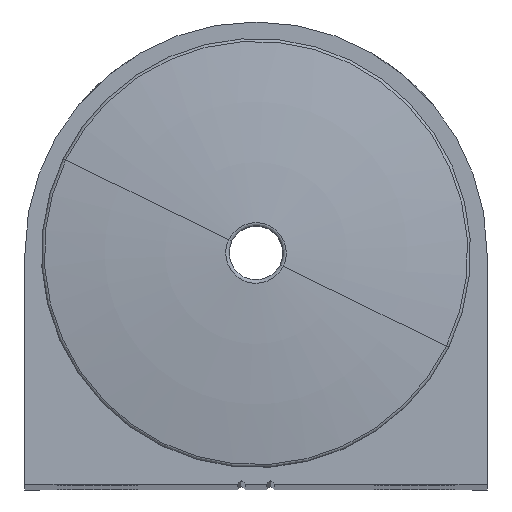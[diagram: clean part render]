
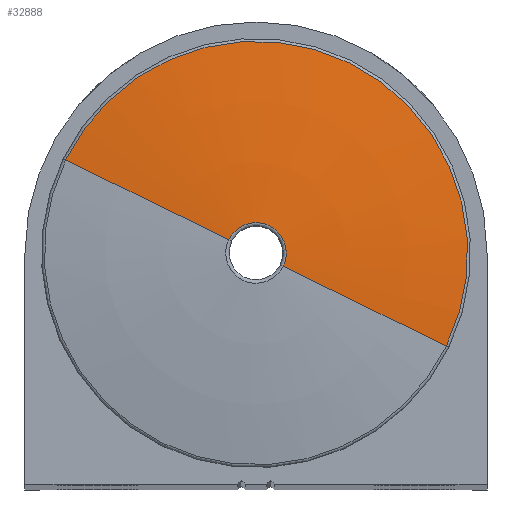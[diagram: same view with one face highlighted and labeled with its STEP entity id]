
A CAD part, top view. The second image highlights one B-rep face of the part: STEP entity #32888.
In plain terms, the highlighted toroidal (fillet/blend) face has major radius 5.57 mm and minor radius 140 mm.
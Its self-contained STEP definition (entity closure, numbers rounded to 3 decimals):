
#842 = CIRCLE ( 'NONE', #12181, 140. ) ;
#3749 = CARTESIAN_POINT ( 'NONE',  ( 134.53, 190.047, 392.928 ) ) ;
#4971 = CARTESIAN_POINT ( 'NONE',  ( 132.473, 191.053, 391.471 ) ) ;
#5344 = EDGE_LOOP ( 'NONE', ( #26996, #29616, #21398, #35360 ) ) ;
#6284 = CARTESIAN_POINT ( 'NONE',  ( 132.473, 191.053, 392.928 ) ) ;
#6492 = CARTESIAN_POINT ( 'NONE',  ( 127.47, 193.501, 253.149 ) ) ;
#8000 = TOROIDAL_SURFACE ( 'NONE', #24043, -5.57, 140. ) ;
#8002 = DIRECTION ( 'NONE',  ( -0.898, 0.439, 0. ) ) ;
#8317 = CIRCLE ( 'NONE', #32058, 16.039 ) ;
#9350 = DIRECTION ( 'NONE',  ( -0.898, 0.439, 0. ) ) ;
#9541 = VERTEX_POINT ( 'NONE', #12548 ) ;
#9561 = DIRECTION ( 'NONE',  ( -0.898, 0.439, 0. ) ) ;
#12181 = AXIS2_PLACEMENT_3D ( 'NONE', #14485, #35500, #17537 ) ;
#12548 = CARTESIAN_POINT ( 'NONE',  ( 130.417, 192.059, 392.928 ) ) ;
#13220 = CIRCLE ( 'NONE', #32331, 2.289 ) ;
#14485 = CARTESIAN_POINT ( 'NONE',  ( 137.477, 188.605, 253.149 ) ) ;
#14713 = AXIS2_PLACEMENT_3D ( 'NONE', #6492, #27542, #9561 ) ;
#15028 = DIRECTION ( 'NONE',  ( -0.898, 0.439, 0. ) ) ;
#16119 = CIRCLE ( 'NONE', #14713, 140. ) ;
#17132 = EDGE_CURVE ( 'NONE', #9541, #31083, #13220, .T. ) ;
#17537 = DIRECTION ( 'NONE',  ( 0.898, -0.439, 0. ) ) ;
#19700 = EDGE_CURVE ( 'NONE', #9541, #37928, #842, .T. ) ;
#20946 = DIRECTION ( 'NONE',  ( 0., 0., -1. ) ) ;
#21020 = EDGE_CURVE ( 'NONE', #33034, #37928, #8317, .T. ) ;
#21398 = ORIENTED_EDGE ( 'NONE', *, *, #21020, .T. ) ;
#24035 = FACE_OUTER_BOUND ( 'NONE', #5344, .T. ) ;
#24043 = AXIS2_PLACEMENT_3D ( 'NONE', #33023, #20946, #15028 ) ;
#26036 = DIRECTION ( 'NONE',  ( 0., 0., 1. ) ) ;
#26996 = ORIENTED_EDGE ( 'NONE', *, *, #17132, .T. ) ;
#27339 = DIRECTION ( 'NONE',  ( 0., 0., -1. ) ) ;
#27542 = DIRECTION ( 'NONE',  ( 0.439, 0.898, 0. ) ) ;
#29616 = ORIENTED_EDGE ( 'NONE', *, *, #39003, .T. ) ;
#31083 = VERTEX_POINT ( 'NONE', #3749 ) ;
#32058 = AXIS2_PLACEMENT_3D ( 'NONE', #4971, #26036, #8002 ) ;
#32331 = AXIS2_PLACEMENT_3D ( 'NONE', #6284, #27339, #9350 ) ;
#32412 = CARTESIAN_POINT ( 'NONE',  ( 118.067, 198.101, 391.471 ) ) ;
#32888 = ADVANCED_FACE ( 'NONE', ( #24035 ), #8000, .T. ) ;
#33023 = CARTESIAN_POINT ( 'NONE',  ( 132.473, 191.053, 253.149 ) ) ;
#33034 = VERTEX_POINT ( 'NONE', #33822 ) ;
#33822 = CARTESIAN_POINT ( 'NONE',  ( 146.88, 184.005, 391.471 ) ) ;
#35360 = ORIENTED_EDGE ( 'NONE', *, *, #19700, .F. ) ;
#35500 = DIRECTION ( 'NONE',  ( -0.439, -0.898, 0. ) ) ;
#37928 = VERTEX_POINT ( 'NONE', #32412 ) ;
#39003 = EDGE_CURVE ( 'NONE', #31083, #33034, #16119, .T. ) ;
